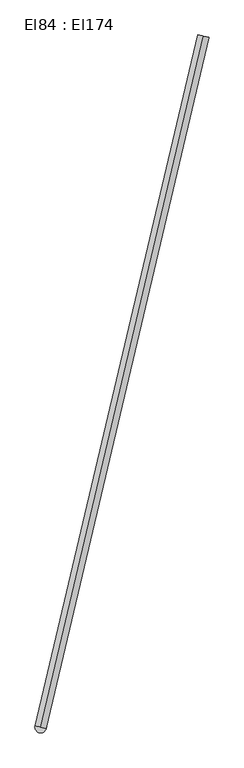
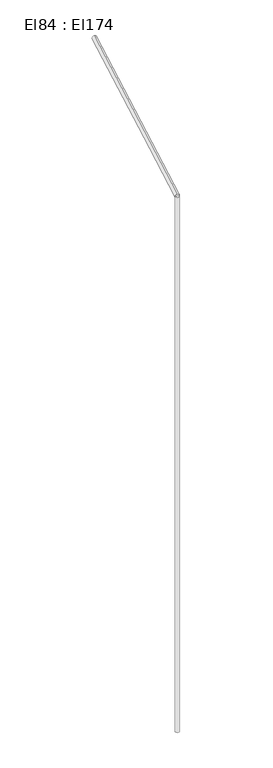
"""IFC4 building model written with IfcOpenShell, lengths in millimetres: cable carrier segment geometry, El84 : El174."""

from ifc_helpers import new_model, si_unit, point, frame, frame_2d, origin, place, context, project, spatial, circle_curve, trimmed, segment, composite_curve, outline, extrude, source, transform, mapped, element, save


def el84_el174_77af81ce(model_context):
    return source(origin(), model_context, "Body", "SweptSolid", [
        extrude(outline(composite_curve([segment(trimmed(circle_curve(frame_2d((1180.4966511, 21166.0771745)), 9.5), [point((1170.9966511, 21166.0771745))], [point((1189.9966511, 21166.0771745))], False, "CARTESIAN"), True, "CONTINUOUS"), segment(trimmed(circle_curve(frame_2d((1180.4966511, 21166.0771745)), 9.5), [point((1189.9966511, 21166.0771745))], [point((1170.9966511, 21166.0771745))], False, "CARTESIAN"), True, "CONTINUOUS")], self_intersect=False)), frame((0.0, 0.0, 1830.0), z_axis=(0.0, 0.0, 1.0), x_axis=(1.0, 0.0, 0.0)), (0.0, 0.0, 1.0), 2620.0),
        extrude(outline(composite_curve([segment(trimmed(circle_curve(frame_2d((0.0, -9.5)), 9.5), [point((0.0, -19.0))], [point((0.0, 0.0))], False, "CARTESIAN"), True, "CONTINUOUS"), segment(trimmed(circle_curve(frame_2d((0.0, -9.5)), 9.5), [point((0.0, 0.0))], [point((0.0, -19.0))], False, "CARTESIAN"), True, "CONTINUOUS")], self_intersect=False)), frame((1180.4973596, 21166.0821776, 4459.5), z_axis=(0.2297489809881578, 0.9732499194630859, 0.0), x_axis=(-0.9732499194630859, 0.2297489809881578, 0.0)), (0.0, 0.0, 1.0), 1156.52),
    ])


if __name__ == "__main__":
    model = new_model("IFC4")
    model_context = context("Model", 3, world=origin())
    ifc_project = project(units=[si_unit("LENGTHUNIT", "METRE", prefix="MILLI")], contexts=[model_context])
    site = spatial("IfcSite", under=ifc_project)
    building = spatial("IfcBuilding", under=site)
    placement = place(None, origin())
    el84_el174_shape = el84_el174_77af81ce(model_context)
    element("IfcCableCarrierSegment", 1, ObjectType="El84 : El174", at=placement, inside=building, context=model_context, shape_type="MappedRepresentation", body=[
        mapped(el84_el174_shape, transform((0.0, 0.0, 0.0), x_axis=(1.0, 0.0, 0.0), y_axis=(0.0, 1.0, 0.0), z_axis=(0.0, 0.0, 1.0))),
    ])
    save(model, "model.ifc")
